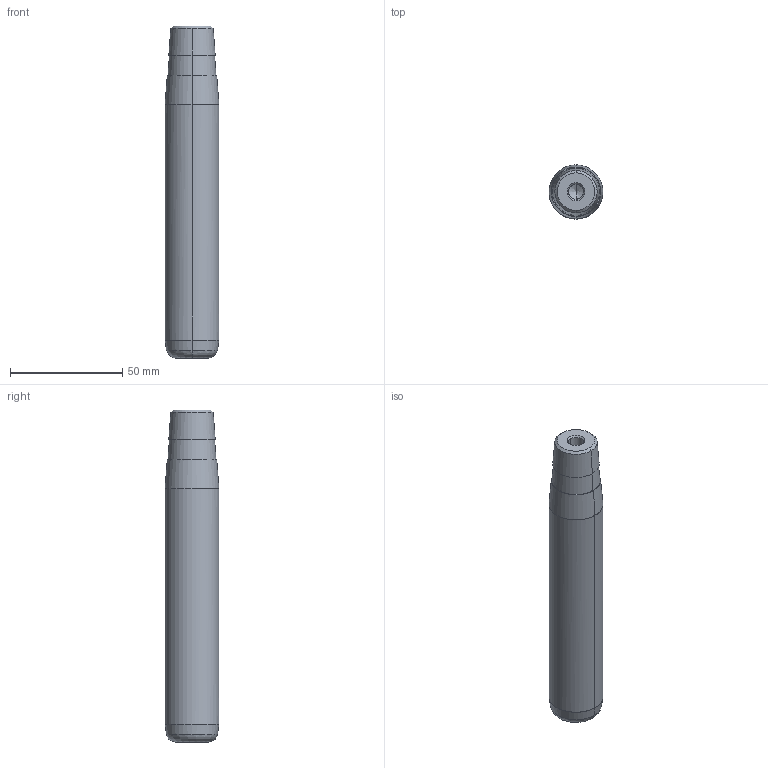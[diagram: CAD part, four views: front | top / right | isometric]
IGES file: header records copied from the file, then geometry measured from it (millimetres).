
Start section: START RECORD GO HERE.
Global section: file name: 722-24x125x148.igs; native system: DASSAULT SYSTEMES CATIA V5 R20 - www.3ds.com; preprocessor: CATIA Version 5 Release 20 ; author: Utente; organization: NB04-ASUS; date: 20210109.093741; units: millimetre
Bounding box: 24 x 24 x 148 mm (x, y, z)
Surface area: 12483.4 mm2 (no closed solid volume)
Topology: 0 solids, 0 shells, 32 faces, 192 edges, 188 vertices
Faces by surface type: revolution 30, plane 2
